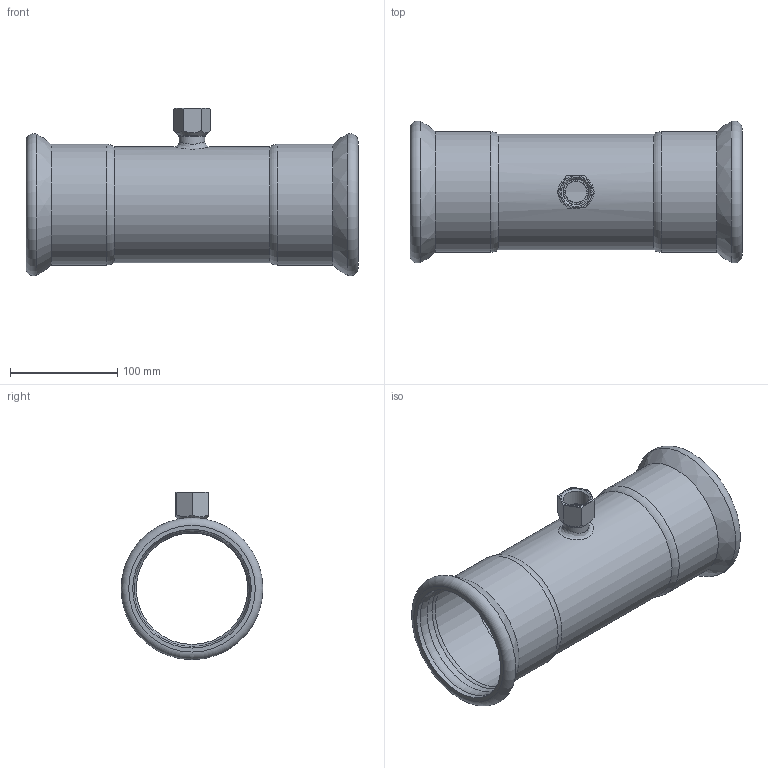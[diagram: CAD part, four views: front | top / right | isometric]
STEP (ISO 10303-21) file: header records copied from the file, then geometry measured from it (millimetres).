
FILE_DESCRIPTION(/* description */ ('TEE CON DERIVAZIONE FILETTATA FEMMINA 108x3/4"x108'),/* implementation_level */ '2;1');
FILE_NAME(/* name */ 'T:\A_ARTICOLI\ARTICOLI PRODOTTI_WEB\Articoli_STEELPRES_WEB\Temporary Step\389304108_Steelpres.ipt.step',/* time_stamp */ '2016-01-20T11:57:06+01:00',/* author */ ('Ghirlinghelli Diego'),/* organization */ (''),/* preprocessor_version */ 'ST-DEVELOPER v15.2',/* originating_system */ 'Autodesk Inventor 2014',/* authorisation */ 'R.M. S.p.A. si riserva a termini di legge la proprietà del presente disegno con divieto di riprodurlo o comunicarlo a terzi senza sua autorizzazione scritta');
FILE_SCHEMA (('AUTOMOTIVE_DESIGN { 1 0 10303 214 3 1 1 }'));
Length unit declared in the file: millimetre
Products named in the file (1): 389304108_Steelpres
Bounding box: 310 x 132.47 x 156.23 mm (x, y, z)
Volume: 332316.6 mm3; surface area: 228512.1 mm2
Topology: 1 solids, 1 shells, 56 faces, 135 edges, 84 vertices
Faces by surface type: cylinder 21, torus 11, plane 11, cone 9, bspline 4
Full cylindrical faces by diameter (mm): 20 x1, 21 x1, 23.48 x1, 24 x1, 24.117 x1, 104 x1, 108 x1, 108.8 x2, 110.7 x4, 112.8 x2
Entity records: 1758 total; most frequent: CARTESIAN_POINT 617, DIRECTION 234, ORIENTED_EDGE 188, AXIS2_PLACEMENT_3D 111, EDGE_CURVE 94, EDGE_LOOP 92, VERTEX_POINT 72, CIRCLE 58
